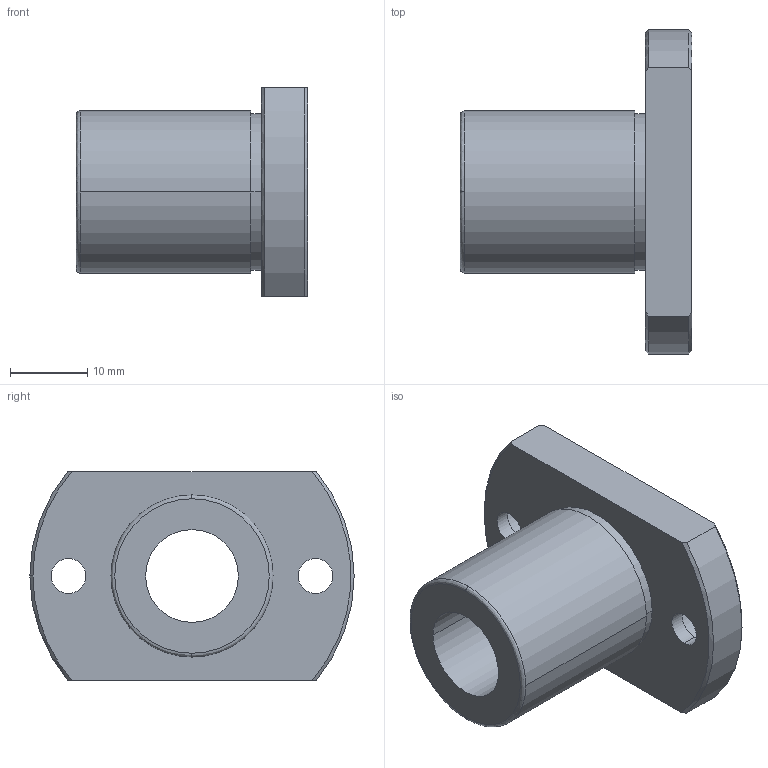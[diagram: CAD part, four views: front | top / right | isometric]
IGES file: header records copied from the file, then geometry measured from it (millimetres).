
Start section: 3D InterOp IGES (Version 21 0 1), Spatial Corp. Copyright (c) 1999-2007.
Global section: file name: NFEO-12VUU.igs; native system: Spatial Corp.; preprocessor: 3D InterOp GENERIC/IGES 3.0; author: Noname; organization: Noname; date: 20220308.103028; units: millimetre
Bounding box: 30 x 42 x 27 mm (x, y, z)
Surface area: 5509.5 mm2 (no closed solid volume)
Topology: 0 solids, 0 shells, 33 faces, 160 edges, 160 vertices
Faces by surface type: revolution 25, extrusion 8
